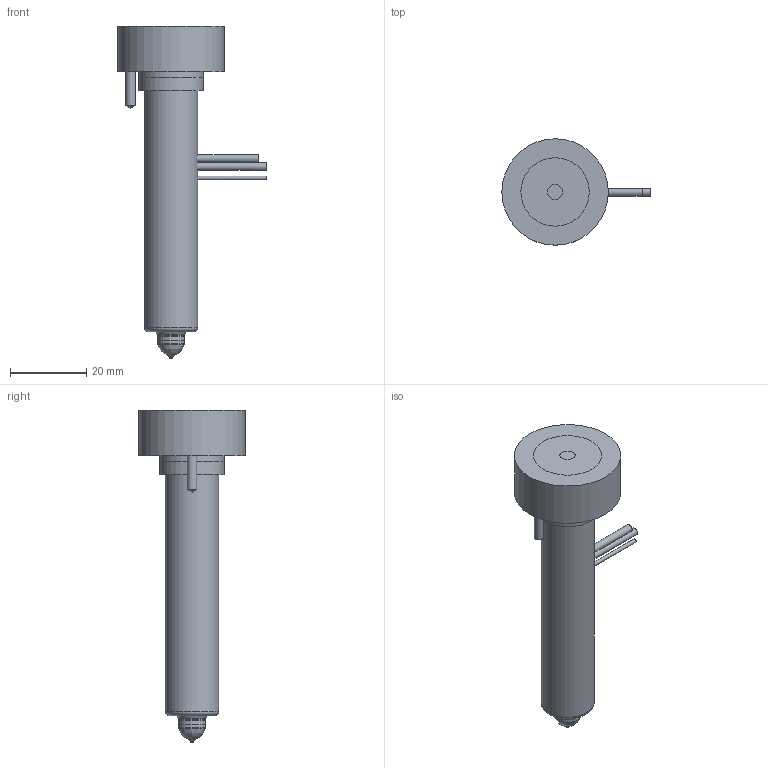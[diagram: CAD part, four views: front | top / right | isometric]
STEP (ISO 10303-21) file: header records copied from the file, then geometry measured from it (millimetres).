
FILE_DESCRIPTION(/* description */ (''),/* implementation_level */ '2;1');
FILE_NAME(/* name */ 'MJTT09075_250C_a',/* time_stamp */ '2008-11-14T18:09:11+13:00',/* author */ (''),/* organization */ (''),/* preprocessor_version */ 'ST-DEVELOPER v9',/* originating_system */ 'UGS - NX 4.0',/* authorisation */ '');
FILE_SCHEMA (('CONFIG_CONTROL_DESIGN'));
Length unit declared in the file: millimetre
Products named in the file (1): Matt5FEBawz1
Bounding box: 39 x 28 x 87.35 mm (x, y, z)
Volume: 31947.3 mm3; surface area: 10371.3 mm2
Topology: 2 solids, 2 shells, 87 faces, 202 edges, 131 vertices
Faces by surface type: plane 36, cylinder 31, cone 10, torus 9, bspline 1
Full cylindrical faces by diameter (mm): 0.7 x1, 1 x1, 2 x2, 2.5 x2, 4 x1, 5.2 x1, 6.61 x1, 7.01 x2, 8 x1, 13 x1, 13.002 x1, 14 x1, 17 x2, 28 x1
Entity records: 2523 total; most frequent: CARTESIAN_POINT 655, DIRECTION 388, ORIENTED_EDGE 302, AXIS2_PLACEMENT_3D 169, EDGE_CURVE 151, EDGE_LOOP 136, VERTEX_POINT 118, ADVANCED_FACE 87
